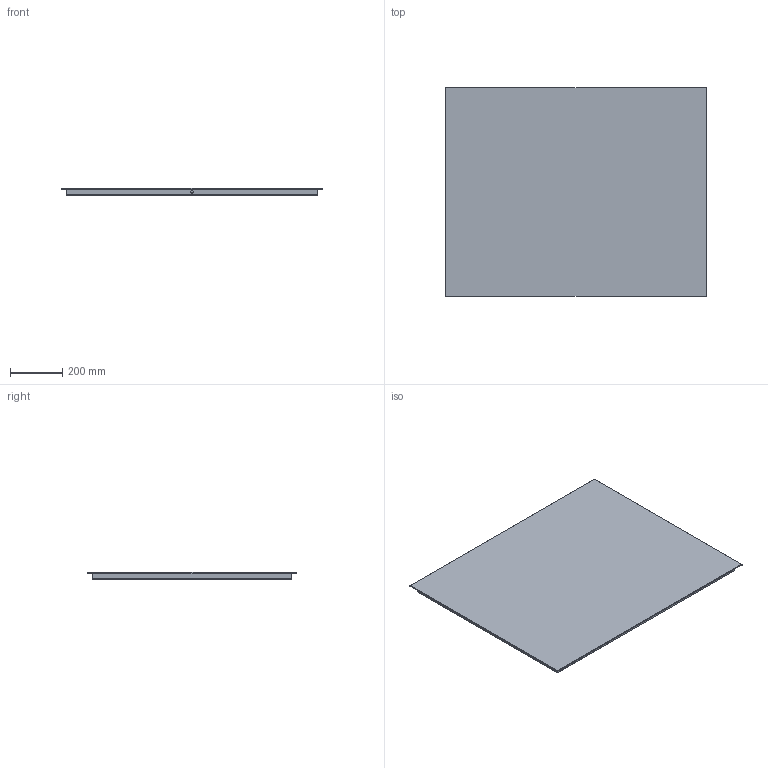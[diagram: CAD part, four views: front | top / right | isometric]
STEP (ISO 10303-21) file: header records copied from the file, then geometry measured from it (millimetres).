
FILE_DESCRIPTION (( 'STEP AP203' ), '1' );
FILE_NAME ('SPIEGEL MODEL 12 100CM.STEP', '2016-07-14T09:43:02', ( '' ), ( '' ), 'SwSTEP 2.0', 'SolidWorks 2016', '' );
FILE_SCHEMA (( 'CONFIG_CONTROL_DESIGN' ));
Length unit declared in the file: millimetre
Products named in the file (1): SPIEGEL MODEL 12 100CM
Bounding box: 1000 x 800 x 30 mm (x, y, z)
Volume: 4499900.7 mm3; surface area: 1790486.3 mm2
Topology: 1 solids, 1 shells, 53 faces, 114 edges, 68 vertices
Faces by surface type: plane 47, cylinder 6
Entity records: 1469 total; most frequent: CARTESIAN_POINT 236, DIRECTION 234, ORIENTED_EDGE 228, EDGE_CURVE 114, LINE 102, VECTOR 102, VERTEX_POINT 68, AXIS2_PLACEMENT_3D 66
